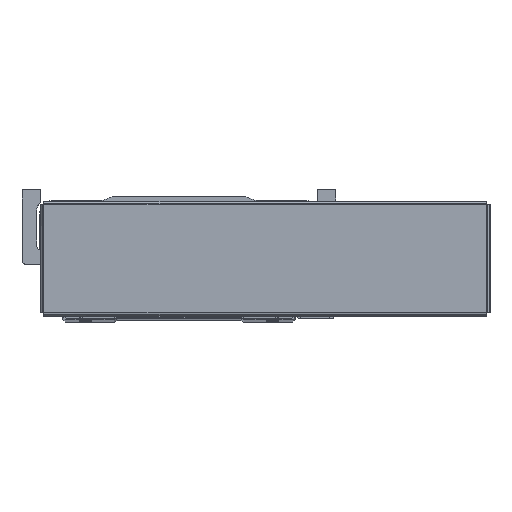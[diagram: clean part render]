
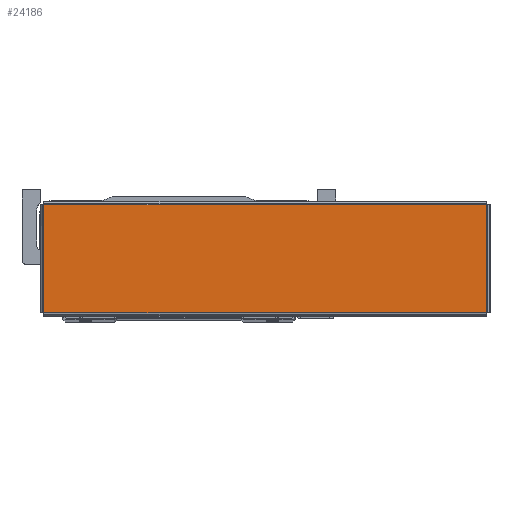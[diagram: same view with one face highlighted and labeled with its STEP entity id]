
A CAD part, top view. The second image highlights one B-rep face of the part: STEP entity #24186.
In plain terms, the highlighted planar face has unit normal (0, 0, 1) as drawn and (0, -1, 0) by its records, which use the part's own axes.
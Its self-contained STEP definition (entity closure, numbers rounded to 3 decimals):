
#14692 = AXIS2_PLACEMENT_3D ( 'NONE', #46414, #46418, #46441 ) ;
#22369 = EDGE_CURVE ( 'NONE', #53263, #53230, #41105, .T. ) ;
#22382 = EDGE_CURVE ( 'NONE', #53222, #53284, #41104, .T. ) ;
#22388 = EDGE_CURVE ( 'NONE', #53230, #53222, #41131, .T. ) ;
#22487 = EDGE_CURVE ( 'NONE', #53284, #53263, #41214, .T. ) ;
#24186 = ADVANCED_FACE ( 'NONE', ( #45018 ), #46422, .F. ) ;
#30025 = ORIENTED_EDGE ( 'NONE', *, *, #22369, .T. ) ;
#30051 = ORIENTED_EDGE ( 'NONE', *, *, #22487, .T. ) ;
#30057 = ORIENTED_EDGE ( 'NONE', *, *, #22382, .T. ) ;
#30131 = ORIENTED_EDGE ( 'NONE', *, *, #22388, .T. ) ;
#34489 = CARTESIAN_POINT ( 'NONE',  ( 128.393, -1.2, 31.363 ) ) ;
#34495 = DIRECTION ( 'NONE',  ( -1., 0., 0. ) ) ;
#34505 = DIRECTION ( 'NONE',  ( 1., 0., 0. ) ) ;
#34507 = CARTESIAN_POINT ( 'NONE',  ( -128.393, -1.2, -31.363 ) ) ;
#34509 = CARTESIAN_POINT ( 'NONE',  ( -128.363, -1.2, 31.393 ) ) ;
#34510 = DIRECTION ( 'NONE',  ( 0., 0., -1. ) ) ;
#34663 = DIRECTION ( 'NONE',  ( 0., 0., 1. ) ) ;
#34666 = CARTESIAN_POINT ( 'NONE',  ( 128.363, -1.2, -31.393 ) ) ;
#41097 = VECTOR ( 'NONE', #34505, 1000. ) ;
#41104 = LINE ( 'NONE', #34507, #41097 ) ;
#41105 = LINE ( 'NONE', #34489, #41120 ) ;
#41120 = VECTOR ( 'NONE', #34495, 1000. ) ;
#41131 = LINE ( 'NONE', #34509, #41133 ) ;
#41133 = VECTOR ( 'NONE', #34510, 1000. ) ;
#41214 = LINE ( 'NONE', #34666, #41217 ) ;
#41217 = VECTOR ( 'NONE', #34663, 1000. ) ;
#44401 = CARTESIAN_POINT ( 'NONE',  ( -128.363, -1.2, 31.363 ) ) ;
#44429 = CARTESIAN_POINT ( 'NONE',  ( 128.363, -1.2, 31.363 ) ) ;
#44445 = CARTESIAN_POINT ( 'NONE',  ( -128.363, -1.2, -31.363 ) ) ;
#44496 = CARTESIAN_POINT ( 'NONE',  ( 128.363, -1.2, -31.363 ) ) ;
#45018 = FACE_OUTER_BOUND ( 'NONE', #54794, .T. ) ;
#46414 = CARTESIAN_POINT ( 'NONE',  ( 0., -1.2, 0. ) ) ;
#46418 = DIRECTION ( 'NONE',  ( 0., 1., 0. ) ) ;
#46422 = PLANE ( 'NONE',  #14692 ) ;
#46441 = DIRECTION ( 'NONE',  ( 0., 0., 1. ) ) ;
#53222 = VERTEX_POINT ( 'NONE', #44445 ) ;
#53230 = VERTEX_POINT ( 'NONE', #44401 ) ;
#53263 = VERTEX_POINT ( 'NONE', #44429 ) ;
#53284 = VERTEX_POINT ( 'NONE', #44496 ) ;
#54794 = EDGE_LOOP ( 'NONE', ( #30025, #30131, #30057, #30051 ) ) ;
